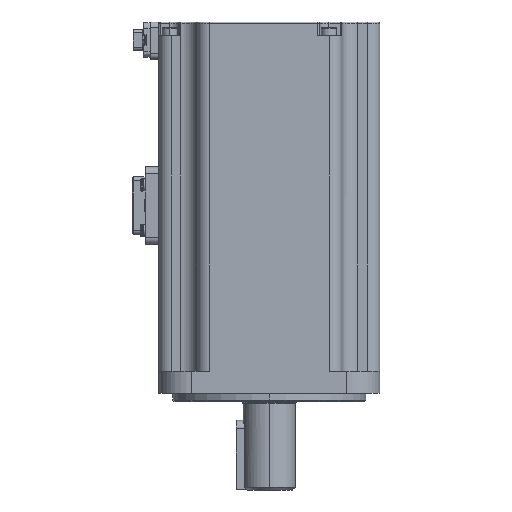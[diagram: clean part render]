
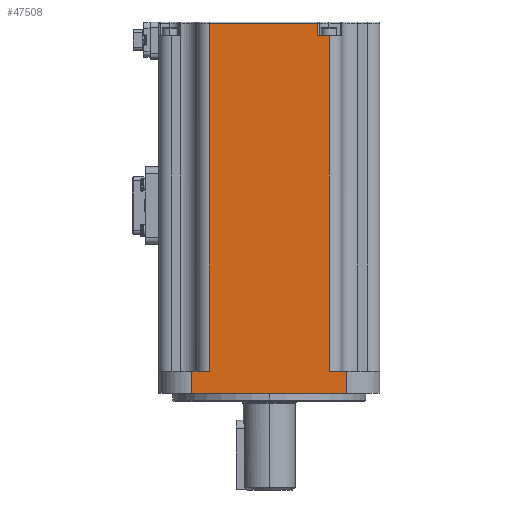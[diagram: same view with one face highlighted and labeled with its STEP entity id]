
A CAD part, left-side view. The second image highlights one B-rep face of the part: STEP entity #47508.
In plain terms, the highlighted planar face has unit normal (-1, 0, 0).
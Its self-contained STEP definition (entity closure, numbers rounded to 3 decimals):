
#97 = CARTESIAN_POINT ( 'NONE',  ( -60.377, 27.067, 69.692 ) ) ;
#910 = EDGE_CURVE ( 'NONE', #44147, #3289, #56146, .T. ) ;
#1826 = CARTESIAN_POINT ( 'NONE',  ( -60.377, 33.317, -49.808 ) ) ;
#3289 = VERTEX_POINT ( 'NONE', #10760 ) ;
#4128 = LINE ( 'NONE', #8724, #20904 ) ;
#5820 = CARTESIAN_POINT ( 'NONE',  ( -60.377, 45.317, -41.808 ) ) ;
#6470 = CARTESIAN_POINT ( 'NONE',  ( -60.377, 33.317, -41.808 ) ) ;
#6700 = VERTEX_POINT ( 'NONE', #13106 ) ;
#6939 = VECTOR ( 'NONE', #37385, 1000. ) ;
#8026 = DIRECTION ( 'NONE',  ( 0., 0., 1. ) ) ;
#8039 = VECTOR ( 'NONE', #51615, 1000. ) ;
#8675 = CARTESIAN_POINT ( 'NONE',  ( -60.377, 27.067, 69.692 ) ) ;
#8724 = CARTESIAN_POINT ( 'NONE',  ( -60.377, -12.814, 79.692 ) ) ;
#9096 = EDGE_CURVE ( 'NONE', #19703, #43776, #52648, .T. ) ;
#9219 = LINE ( 'NONE', #13533, #28938 ) ;
#9582 = LINE ( 'NONE', #23034, #10974 ) ;
#10760 = CARTESIAN_POINT ( 'NONE',  ( -60.377, 27.067, -41.808 ) ) ;
#10974 = VECTOR ( 'NONE', #27033, 1000. ) ;
#12658 = EDGE_CURVE ( 'NONE', #28921, #43776, #15670, .T. ) ;
#12661 = DIRECTION ( 'NONE',  ( 0., 1., 0. ) ) ;
#13106 = CARTESIAN_POINT ( 'NONE',  ( -60.377, -22.683, -41.808 ) ) ;
#13533 = CARTESIAN_POINT ( 'NONE',  ( -60.377, 45.317, -41.808 ) ) ;
#13852 = ORIENTED_EDGE ( 'NONE', *, *, #24610, .F. ) ;
#14090 = CARTESIAN_POINT ( 'NONE',  ( -60.377, -12.314, 84.192 ) ) ;
#14642 = ORIENTED_EDGE ( 'NONE', *, *, #12658, .T. ) ;
#15088 = VECTOR ( 'NONE', #12661, 1000. ) ;
#15670 = LINE ( 'NONE', #6470, #6939 ) ;
#17015 = DIRECTION ( 'NONE',  ( 0., 0., -1. ) ) ;
#17243 = CARTESIAN_POINT ( 'NONE',  ( -60.377, 45.317, -49.808 ) ) ;
#19703 = VERTEX_POINT ( 'NONE', #32729 ) ;
#20904 = VECTOR ( 'NONE', #53278, 1000. ) ;
#21220 = VERTEX_POINT ( 'NONE', #14090 ) ;
#21226 = VECTOR ( 'NONE', #17015, 1000. ) ;
#22749 = EDGE_CURVE ( 'NONE', #19703, #6700, #9582, .T. ) ;
#23034 = CARTESIAN_POINT ( 'NONE',  ( -60.377, -22.683, -41.808 ) ) ;
#23272 = VERTEX_POINT ( 'NONE', #55748 ) ;
#24088 = DIRECTION ( 'NONE',  ( 0., -1., 0. ) ) ;
#24610 = EDGE_CURVE ( 'NONE', #40962, #45684, #4128, .T. ) ;
#25623 = EDGE_CURVE ( 'NONE', #45684, #23272, #45366, .T. ) ;
#25730 = ORIENTED_EDGE ( 'NONE', *, *, #28582, .T. ) ;
#26413 = DIRECTION ( 'NONE',  ( 1., 0., 0. ) ) ;
#27033 = DIRECTION ( 'NONE',  ( 0., 0., 1. ) ) ;
#28489 = LINE ( 'NONE', #50492, #8039 ) ;
#28582 = EDGE_CURVE ( 'NONE', #21220, #44147, #28489, .T. ) ;
#28921 = VERTEX_POINT ( 'NONE', #35849 ) ;
#28938 = VECTOR ( 'NONE', #31790, 1000. ) ;
#29323 = EDGE_CURVE ( 'NONE', #28921, #3289, #49322, .T. ) ;
#29758 = CARTESIAN_POINT ( 'NONE',  ( -60.377, -12.314, 84.692 ) ) ;
#30408 = FACE_OUTER_BOUND ( 'NONE', #32125, .T. ) ;
#31711 = ORIENTED_EDGE ( 'NONE', *, *, #25623, .F. ) ;
#31790 = DIRECTION ( 'NONE',  ( 0., -1., 0. ) ) ;
#32125 = EDGE_LOOP ( 'NONE', ( #50937, #44240, #14642, #39472, #51216, #46498, #31711, #13852, #46116, #25730 ) ) ;
#32206 = DIRECTION ( 'NONE',  ( 0., 0., -1. ) ) ;
#32729 = CARTESIAN_POINT ( 'NONE',  ( -60.377, -22.683, -49.808 ) ) ;
#32788 = CARTESIAN_POINT ( 'NONE',  ( -60.377, -16.433, 69.692 ) ) ;
#34036 = LINE ( 'NONE', #29758, #49957 ) ;
#34607 = CARTESIAN_POINT ( 'NONE',  ( -60.377, 27.067, 84.192 ) ) ;
#35849 = CARTESIAN_POINT ( 'NONE',  ( -60.377, 33.317, -41.808 ) ) ;
#37063 = CARTESIAN_POINT ( 'NONE',  ( -60.377, -12.314, 79.692 ) ) ;
#37376 = VECTOR ( 'NONE', #32206, 1000. ) ;
#37385 = DIRECTION ( 'NONE',  ( 0., 0., -1. ) ) ;
#39472 = ORIENTED_EDGE ( 'NONE', *, *, #9096, .F. ) ;
#40962 = VERTEX_POINT ( 'NONE', #37063 ) ;
#43776 = VERTEX_POINT ( 'NONE', #1826 ) ;
#44147 = VERTEX_POINT ( 'NONE', #34607 ) ;
#44240 = ORIENTED_EDGE ( 'NONE', *, *, #29323, .F. ) ;
#44363 = CARTESIAN_POINT ( 'NONE',  ( -60.377, -16.433, 79.692 ) ) ;
#45010 = DIRECTION ( 'NONE',  ( 0., -1., 0. ) ) ;
#45366 = LINE ( 'NONE', #32788, #37376 ) ;
#45684 = VERTEX_POINT ( 'NONE', #44363 ) ;
#45708 = EDGE_CURVE ( 'NONE', #23272, #6700, #9219, .T. ) ;
#46116 = ORIENTED_EDGE ( 'NONE', *, *, #55993, .T. ) ;
#46498 = ORIENTED_EDGE ( 'NONE', *, *, #45708, .F. ) ;
#47508 = ADVANCED_FACE ( 'NONE', ( #30408 ), #56441, .F. ) ;
#49322 = LINE ( 'NONE', #5820, #52293 ) ;
#49429 = AXIS2_PLACEMENT_3D ( 'NONE', #8675, #26413, #24088 ) ;
#49957 = VECTOR ( 'NONE', #8026, 1000. ) ;
#50492 = CARTESIAN_POINT ( 'NONE',  ( -60.377, 27.067, 84.192 ) ) ;
#50937 = ORIENTED_EDGE ( 'NONE', *, *, #910, .T. ) ;
#51216 = ORIENTED_EDGE ( 'NONE', *, *, #22749, .T. ) ;
#51615 = DIRECTION ( 'NONE',  ( 0., 1., 0. ) ) ;
#52293 = VECTOR ( 'NONE', #45010, 1000. ) ;
#52648 = LINE ( 'NONE', #17243, #15088 ) ;
#53278 = DIRECTION ( 'NONE',  ( 0., -1., 0. ) ) ;
#55748 = CARTESIAN_POINT ( 'NONE',  ( -60.377, -16.433, -41.808 ) ) ;
#55993 = EDGE_CURVE ( 'NONE', #40962, #21220, #34036, .T. ) ;
#56146 = LINE ( 'NONE', #97, #21226 ) ;
#56441 = PLANE ( 'NONE',  #49429 ) ;
